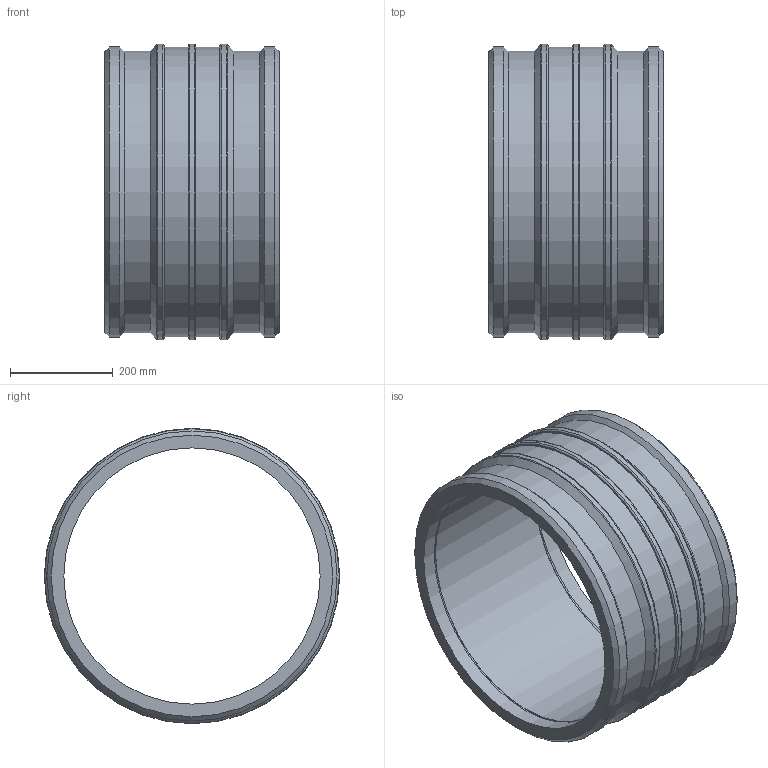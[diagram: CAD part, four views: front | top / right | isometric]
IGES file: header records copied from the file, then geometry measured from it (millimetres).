
Global section: file name: 460103500.ipt; native system: Autodesk Inventor 2015; preprocessor: unknown; author: KIM; date: 20190124.125927; units: millimetre
Bounding box: 340 x 576 x 576 mm (x, y, z)
Volume: 17149590 mm3; surface area: 1293620.4 mm2
Topology: 1 solids, 1 shells, 48 faces, 106 edges, 70 vertices
Faces by surface type: cylinder 15, plane 14, revolution 13, cone 6
Full cylindrical faces by diameter (mm): 4 x2, 549.02 x2, 564.48 x2, 566 x2, 576 x3
